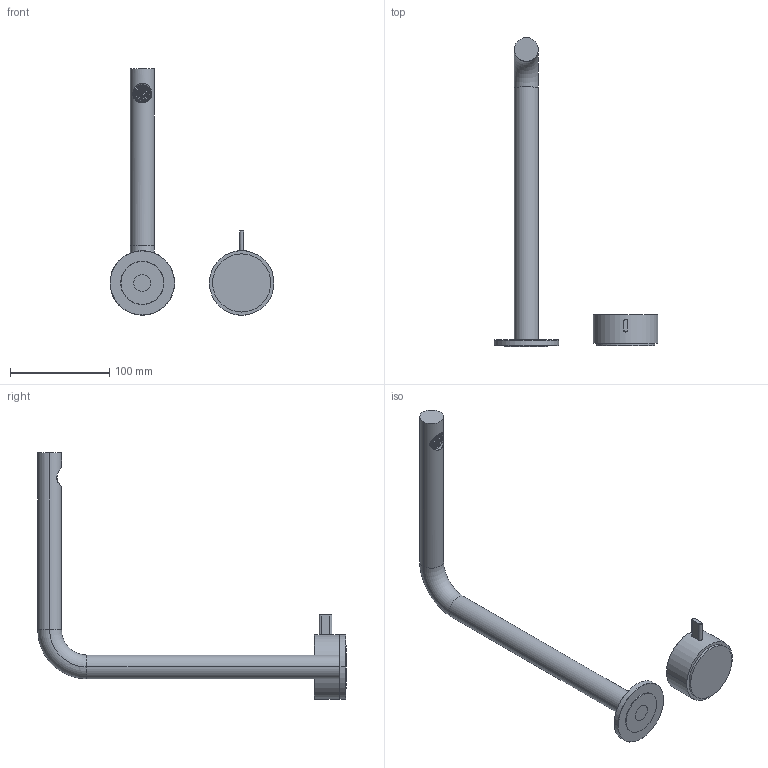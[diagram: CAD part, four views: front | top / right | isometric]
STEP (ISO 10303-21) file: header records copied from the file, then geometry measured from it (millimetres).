
FILE_DESCRIPTION((''),'2;1');
FILE_NAME('27000A107WF00000_SW0002','2023-01-12T10:27:51',('matteo.follador'),(''),'CREO PARAMETRIC BY PTC INC, 2020281','CREO PARAMETRIC BY PTC INC, 2020281','');
FILE_SCHEMA(('AUTOMOTIVE_DESIGN { 1 0 10303 214 1 1 1 1 }'));
Length unit declared in the file: millimetre
Products named in the file (1): 27000A107WF00000_SW0002
Bounding box: 165 x 310.6 x 248 mm (x, y, z)
Volume: 245443.1 mm3; surface area: 84819.1 mm2
Topology: 2 solids, 4 shells, 356 faces, 903 edges, 589 vertices
Faces by surface type: plane 258, cylinder 61, torus 18, cone 11, bspline 4, sphere 4
Entity records: 13674 total; most frequent: CARTESIAN_POINT 3955, DIRECTION 1949, ORIENTED_EDGE 1806, EDGE_CURVE 903, AXIS2_PLACEMENT_3D 719, VERTEX_POINT 589, VECTOR 508, LINE 508
